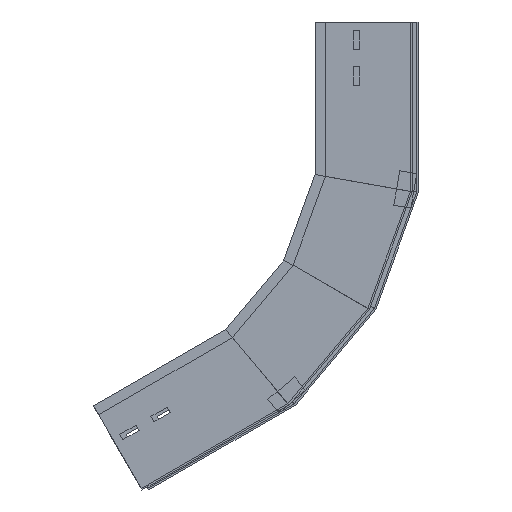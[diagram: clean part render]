
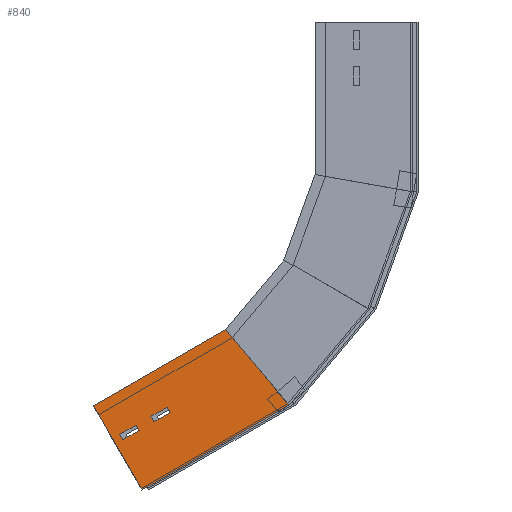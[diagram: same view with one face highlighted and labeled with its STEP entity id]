
A CAD part, left-side view. The second image highlights one B-rep face of the part: STEP entity #840.
In plain terms, the highlighted planar face has unit normal (-1, 0, 0) as drawn and (1, 0, 0) by its records, which use the part's own axes.
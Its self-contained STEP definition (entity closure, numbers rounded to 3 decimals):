
#3 = CARTESIAN_POINT ( 'NONE',  ( 0., 68.5, -31.835 ) ) ;
#34 = LINE ( 'NONE', #1449, #571 ) ;
#37 = CARTESIAN_POINT ( 'NONE',  ( 0., 0., 0. ) ) ;
#45 = VECTOR ( 'NONE', #844, 1000. ) ;
#71 = VECTOR ( 'NONE', #1049, 1000. ) ;
#73 = VECTOR ( 'NONE', #1351, 1000. ) ;
#87 = EDGE_LOOP ( 'NONE', ( #1011, #1415, #1207, #1015 ) ) ;
#105 = ORIENTED_EDGE ( 'NONE', *, *, #1426, .T. ) ;
#123 = VECTOR ( 'NONE', #1007, 1000. ) ;
#132 = CARTESIAN_POINT ( 'NONE',  ( 0., 68.5, -73.505 ) ) ;
#142 = CARTESIAN_POINT ( 'NONE',  ( 0., 68.5, -31.835 ) ) ;
#185 = FACE_BOUND ( 'NONE', #1518, .T. ) ;
#195 = CARTESIAN_POINT ( 'NONE',  ( 0., 61.5, -9.835 ) ) ;
#216 = DIRECTION ( 'NONE',  ( 0., 0., 1. ) ) ;
#223 = VERTEX_POINT ( 'NONE', #1490 ) ;
#243 = VERTEX_POINT ( 'NONE', #723 ) ;
#294 = DIRECTION ( 'NONE',  ( 0., 0., -1. ) ) ;
#298 = LINE ( 'NONE', #142, #544 ) ;
#324 = CARTESIAN_POINT ( 'NONE',  ( 0., 68.5, -51.505 ) ) ;
#326 = VECTOR ( 'NONE', #1214, 1000. ) ;
#382 = VERTEX_POINT ( 'NONE', #628 ) ;
#385 = DIRECTION ( 'NONE',  ( 0., -1., 0. ) ) ;
#413 = DIRECTION ( 'NONE',  ( 0., 0., 1. ) ) ;
#434 = FACE_BOUND ( 'NONE', #87, .T. ) ;
#441 = CARTESIAN_POINT ( 'NONE',  ( 0., 68.5, -9.835 ) ) ;
#448 = LINE ( 'NONE', #324, #1286 ) ;
#509 = EDGE_CURVE ( 'NONE', #1604, #1439, #966, .T. ) ;
#544 = VECTOR ( 'NONE', #657, 1000. ) ;
#546 = LINE ( 'NONE', #1195, #71 ) ;
#571 = VECTOR ( 'NONE', #294, 1000. ) ;
#575 = CARTESIAN_POINT ( 'NONE',  ( 0., 68.5, -51.505 ) ) ;
#600 = LINE ( 'NONE', #441, #1290 ) ;
#624 = EDGE_LOOP ( 'NONE', ( #1281, #625, #1074, #924 ) ) ;
#625 = ORIENTED_EDGE ( 'NONE', *, *, #927, .F. ) ;
#628 = CARTESIAN_POINT ( 'NONE',  ( 0., 68.5, -9.835 ) ) ;
#657 = DIRECTION ( 'NONE',  ( 0., -1., 0. ) ) ;
#675 = CARTESIAN_POINT ( 'NONE',  ( 0., 61.5, -31.835 ) ) ;
#689 = VERTEX_POINT ( 'NONE', #1277 ) ;
#694 = CARTESIAN_POINT ( 'NONE',  ( 0., 61.5, -9.835 ) ) ;
#717 = DIRECTION ( 'NONE',  ( 0., 0., -1. ) ) ;
#723 = CARTESIAN_POINT ( 'NONE',  ( 0., 112.5, 0. ) ) ;
#730 = CARTESIAN_POINT ( 'NONE',  ( 0., 61.5, -51.505 ) ) ;
#737 = EDGE_CURVE ( 'NONE', #1439, #382, #546, .T. ) ;
#809 = AXIS2_PLACEMENT_3D ( 'NONE', #1070, #1190, #413 ) ;
#823 = FACE_OUTER_BOUND ( 'NONE', #624, .T. ) ;
#825 = ORIENTED_EDGE ( 'NONE', *, *, #1176, .T. ) ;
#837 = CARTESIAN_POINT ( 'NONE',  ( 0., 33.621, -190.672 ) ) ;
#840 = ADVANCED_FACE ( 'NONE', ( #185, #823, #434 ), #1466, .F. ) ;
#844 = DIRECTION ( 'NONE',  ( 0., 0., -1. ) ) ;
#880 = DIRECTION ( 'NONE',  ( 0., 0., 1. ) ) ;
#924 = ORIENTED_EDGE ( 'NONE', *, *, #1457, .F. ) ;
#927 = EDGE_CURVE ( 'NONE', #223, #243, #1198, .T. ) ;
#966 = LINE ( 'NONE', #195, #967 ) ;
#967 = VECTOR ( 'NONE', #216, 1000. ) ;
#971 = EDGE_CURVE ( 'NONE', #223, #1618, #1493, .T. ) ;
#1007 = DIRECTION ( 'NONE',  ( 0., 1., 0. ) ) ;
#1011 = ORIENTED_EDGE ( 'NONE', *, *, #737, .T. ) ;
#1015 = ORIENTED_EDGE ( 'NONE', *, *, #509, .T. ) ;
#1020 = VECTOR ( 'NONE', #880, 1000. ) ;
#1031 = EDGE_CURVE ( 'NONE', #1421, #689, #1364, .T. ) ;
#1049 = DIRECTION ( 'NONE',  ( 0., 1., 0. ) ) ;
#1070 = CARTESIAN_POINT ( 'NONE',  ( 0., 0., 0. ) ) ;
#1074 = ORIENTED_EDGE ( 'NONE', *, *, #971, .T. ) ;
#1080 = ORIENTED_EDGE ( 'NONE', *, *, #1424, .T. ) ;
#1086 = CARTESIAN_POINT ( 'NONE',  ( 0., 61.5, -73.505 ) ) ;
#1093 = CARTESIAN_POINT ( 'NONE',  ( 0., 0., -196.6 ) ) ;
#1100 = VECTOR ( 'NONE', #385, 1000. ) ;
#1106 = DIRECTION ( 'NONE',  ( 0., 0., -1. ) ) ;
#1119 = VERTEX_POINT ( 'NONE', #1412 ) ;
#1176 = EDGE_CURVE ( 'NONE', #1663, #1421, #1283, .T. ) ;
#1190 = DIRECTION ( 'NONE',  ( -1., 0., 0. ) ) ;
#1192 = VERTEX_POINT ( 'NONE', #3 ) ;
#1195 = CARTESIAN_POINT ( 'NONE',  ( 0., 68.5, -9.835 ) ) ;
#1198 = LINE ( 'NONE', #37, #123 ) ;
#1202 = CARTESIAN_POINT ( 'NONE',  ( 0., 68.5, -73.505 ) ) ;
#1207 = ORIENTED_EDGE ( 'NONE', *, *, #1334, .T. ) ;
#1214 = DIRECTION ( 'NONE',  ( 0., 1., 0. ) ) ;
#1265 = ORIENTED_EDGE ( 'NONE', *, *, #1031, .T. ) ;
#1277 = CARTESIAN_POINT ( 'NONE',  ( 0., 61.5, -51.505 ) ) ;
#1281 = ORIENTED_EDGE ( 'NONE', *, *, #1645, .F. ) ;
#1283 = LINE ( 'NONE', #132, #1100 ) ;
#1286 = VECTOR ( 'NONE', #717, 1000. ) ;
#1290 = VECTOR ( 'NONE', #1106, 1000. ) ;
#1334 = EDGE_CURVE ( 'NONE', #1192, #1604, #298, .T. ) ;
#1339 = LINE ( 'NONE', #837, #73 ) ;
#1351 = DIRECTION ( 'NONE',  ( 0., -0.985, -0.174 ) ) ;
#1364 = LINE ( 'NONE', #730, #1020 ) ;
#1412 = CARTESIAN_POINT ( 'NONE',  ( 0., 68.5, -51.505 ) ) ;
#1415 = ORIENTED_EDGE ( 'NONE', *, *, #1530, .T. ) ;
#1421 = VERTEX_POINT ( 'NONE', #1086 ) ;
#1424 = EDGE_CURVE ( 'NONE', #689, #1119, #1479, .T. ) ;
#1426 = EDGE_CURVE ( 'NONE', #1119, #1663, #448, .T. ) ;
#1439 = VERTEX_POINT ( 'NONE', #694 ) ;
#1449 = CARTESIAN_POINT ( 'NONE',  ( 0., 112.5, 0. ) ) ;
#1457 = EDGE_CURVE ( 'NONE', #1677, #1618, #1339, .T. ) ;
#1466 = PLANE ( 'NONE',  #809 ) ;
#1479 = LINE ( 'NONE', #575, #326 ) ;
#1490 = CARTESIAN_POINT ( 'NONE',  ( 0., 0., 0. ) ) ;
#1493 = LINE ( 'NONE', #1500, #45 ) ;
#1500 = CARTESIAN_POINT ( 'NONE',  ( 0., 0., 0. ) ) ;
#1518 = EDGE_LOOP ( 'NONE', ( #1080, #105, #825, #1265 ) ) ;
#1530 = EDGE_CURVE ( 'NONE', #382, #1192, #600, .T. ) ;
#1604 = VERTEX_POINT ( 'NONE', #675 ) ;
#1618 = VERTEX_POINT ( 'NONE', #1093 ) ;
#1640 = CARTESIAN_POINT ( 'NONE',  ( 0., 112.5, -176.763 ) ) ;
#1645 = EDGE_CURVE ( 'NONE', #243, #1677, #34, .T. ) ;
#1663 = VERTEX_POINT ( 'NONE', #1202 ) ;
#1677 = VERTEX_POINT ( 'NONE', #1640 ) ;
